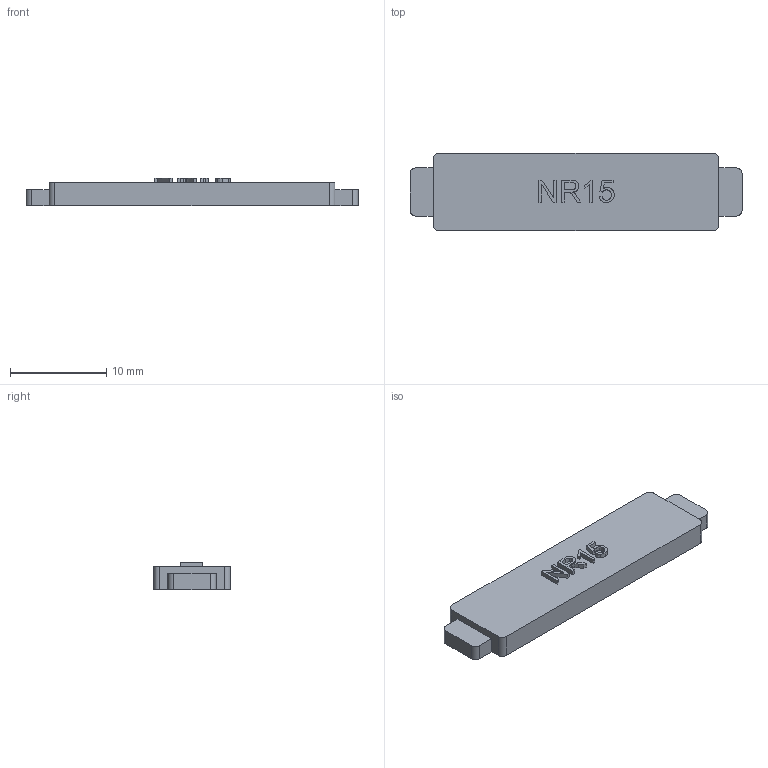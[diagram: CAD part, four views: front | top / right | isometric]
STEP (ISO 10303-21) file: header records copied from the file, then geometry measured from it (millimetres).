
FILE_DESCRIPTION(('Open CASCADE Model'),'2;1');
FILE_NAME('Open CASCADE Shape Model','1970-01-01T00:00:00',('Author'),( 'Open CASCADE'),'Open CASCADE STEP processor 7.8','Open CASCADE 7.8' ,'Unknown');
FILE_SCHEMA(('AUTOMOTIVE_DESIGN { 1 0 10303 214 1 1 1 1 }'));
Length unit declared in the file: millimetre
Products named in the file (2): Open CASCADE STEP translator 7.8 26; NR15K neck keeper bar
Assembly tree (1 placements, depth 2):
  Open CASCADE STEP translator 7.8 26
    NR15K neck keeper bar
Bounding box: 34.5 x 8 x 2.88 mm (x, y, z)
Volume: 612.3 mm3; surface area: 736.7 mm2
Topology: 1 solids, 1 shells, 95 faces, 264 edges, 176 vertices
Faces by surface type: plane 52, extrusion 35, cylinder 8
Entity records: 6998 total; most frequent: CARTESIAN_POINT 2118, DIRECTION 710, VECTOR 542, ORIENTED_EDGE 528, PCURVE 528, DEFINITIONAL_REPRESENTATION 528, LINE 507, B_SPLINE_CURVE_WITH_KNOTS 288
